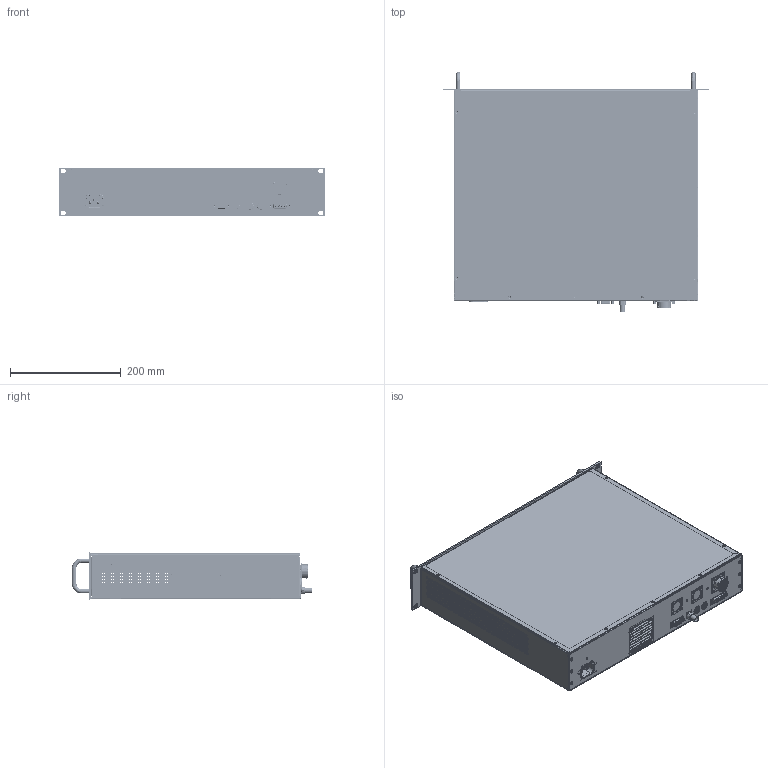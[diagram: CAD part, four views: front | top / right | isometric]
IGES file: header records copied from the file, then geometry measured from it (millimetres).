
Start section: Elysium IGES Interface
Global section: file name: U:\A-suivi LDK\ITZ_RACK_BLACKBOX.igs; native system: Creo Elements/Direct Modeling 17.0E  05-Feb-2012; preprocessor: Creo Element/Direct IGES_3D V2.2; author: Unknown; organization: Unknown; date: 20141110.140122; units: millimetre
Bounding box: 482 x 433.76 x 88 mm (x, y, z)
Volume: 663217.3 mm3; surface area: 997142.5 mm2
Topology: 7 solids, 9 shells, 3294 faces, 8962 edges, 5824 vertices
Faces by surface type: bspline 3294
